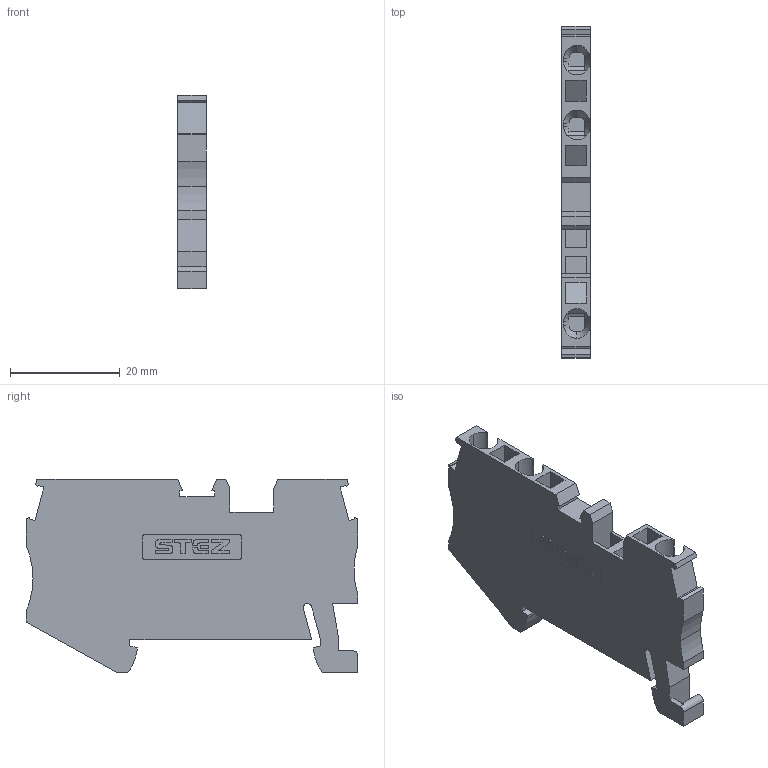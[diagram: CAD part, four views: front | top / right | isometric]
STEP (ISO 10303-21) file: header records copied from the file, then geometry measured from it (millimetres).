
FILE_DESCRIPTION(('TFLEX Exchange Step'),'2;1');
FILE_NAME('10000088_KH3 2,5-3-Ж.stp', '2023-10-02T13:16:26+03:00',('apanin'),('Unknown organisation'),'TFLEX Exchange 2023.0','T-FLEX CAD','Unknown authorisation');
FILE_SCHEMA( ('AUTOMOTIVE_DESIGN { 1 0 10303 214 1 1 1 1 }') );
Length unit declared in the file: millimetre
Products named in the file (1): Тело_1 - 1:1
Bounding box: 5.15 x 60.4 x 35.25 mm (x, y, z)
Volume: 7453.8 mm3; surface area: 5805.1 mm2
Topology: 1 solids, 1 shells, 387 faces, 1112 edges, 737 vertices
Faces by surface type: cylinder 197, plane 178, cone 12
Entity records: 13541 total; most frequent: CARTESIAN_POINT 3101, ORIENTED_EDGE 2224, DIRECTION 2213, EDGE_CURVE 1112, AXIS2_PLACEMENT_3D 776, VERTEX_POINT 737, VECTOR 661, LINE 661
